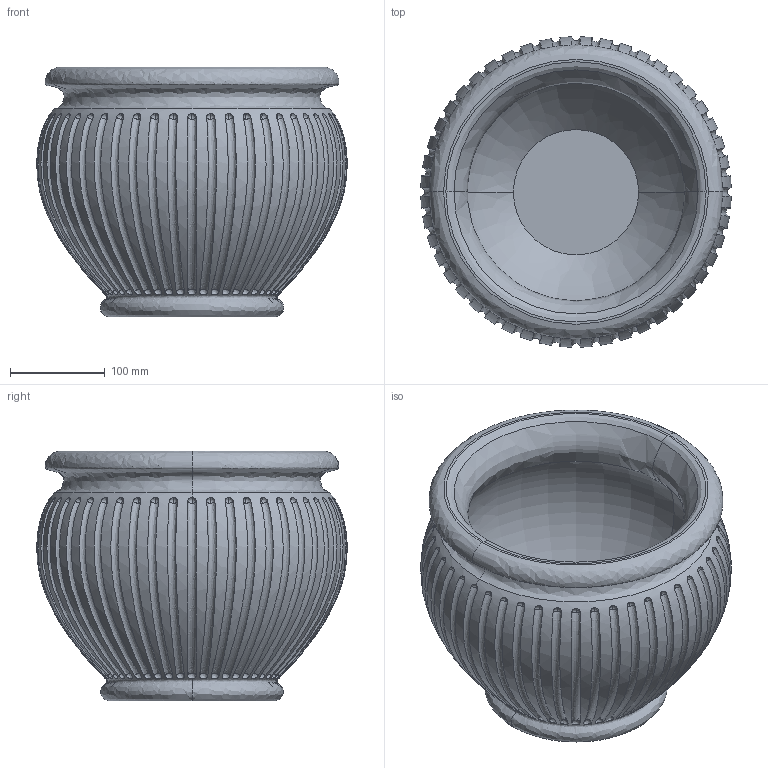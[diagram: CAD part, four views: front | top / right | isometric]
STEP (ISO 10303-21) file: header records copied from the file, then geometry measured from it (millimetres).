
FILE_DESCRIPTION(/* description */ (''),/* implementation_level */ '2;1');
FILE_NAME(/* name */ '30',/* time_stamp */ '2026-07-06T11:59:52+02:00',/* author */ (''),/* organization */ (''),/* preprocessor_version */ 'ST-DEVELOPER v19.2',/* originating_system */ 'Rhino 8.32',/* authorisation */ '');
FILE_SCHEMA (('CONFIG_CONTROL_DESIGN'));
Length unit declared in the file: millimetre
Products named in the file (1): Document
Bounding box: 328.55 x 328.55 x 264.32 mm (x, y, z)
Volume: 4693128.7 mm3; surface area: 593993.5 mm2
Topology: 1 solids, 1 shells, 205 faces, 460 edges, 304 vertices
Faces by surface type: bspline 202, plane 3
Entity records: 30345 total; most frequent: CARTESIAN_POINT 26569, ORIENTED_EDGE 920, EDGE_CURVE 460, DIRECTION 423, VERTEX_POINT 304, EDGE_LOOP 252, B_SPLINE_CURVE_WITH_KNOTS 242, AXIS2_PLACEMENT_3D 213
